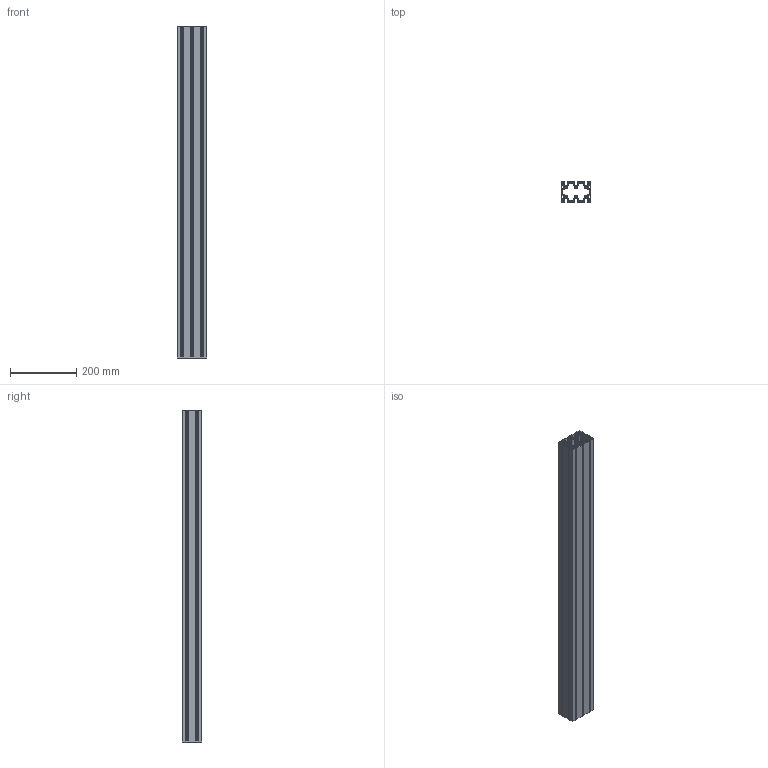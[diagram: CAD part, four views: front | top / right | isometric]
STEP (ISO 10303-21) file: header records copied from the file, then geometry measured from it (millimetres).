
FILE_DESCRIPTION (( 'STEP AP214' ), '1' );
FILE_NAME ('step.step', '2015-09-04T01:21:57', ( '' ), ( '' ), 'SwSTEP 2.0', 'SolidWorks 2015', '' );
FILE_SCHEMA (( 'AUTOMOTIVE_DESIGN' ));
Length unit declared in the file: millimetre
Products named in the file (1): step
Bounding box: 90 x 60 x 1000 mm (x, y, z)
Volume: 1373523.3 mm3; surface area: 1027270.7 mm2
Topology: 1 solids, 1 shells, 352 faces, 1050 edges, 700 vertices
Faces by surface type: cylinder 196, plane 156
Entity records: 12044 total; most frequent: DIRECTION 2148, CARTESIAN_POINT 2103, ORIENTED_EDGE 2100, EDGE_CURVE 1050, AXIS2_PLACEMENT_3D 745, VERTEX_POINT 700, VECTOR 658, LINE 658
